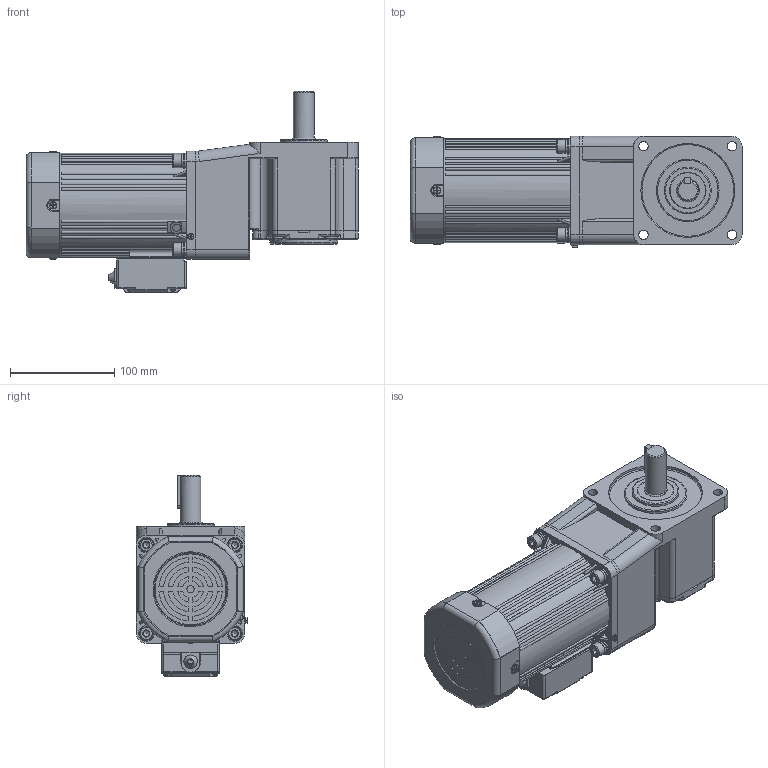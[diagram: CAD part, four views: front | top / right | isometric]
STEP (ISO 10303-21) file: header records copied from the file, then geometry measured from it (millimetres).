
FILE_DESCRIPTION(/* description */ (''),/* implementation_level */ '2;1');
FILE_NAME(/* name */ '100+直角中实-风叶-160-250W 新版标准接线盒.stp',/* time_stamp */ '2025-11-26T09:22:04+08:00',/* author */ (''),/* organization */ (''),/* preprocessor_version */ 'ST-DEVELOPER v18.102',/* originating_system */ 'SIEMENS PLM Software NX 2027',/* authorisation */ '');
FILE_SCHEMA (('AUTOMOTIVE_DESIGN { 1 0 10303 214 3 1 1 1 }'));
Products named in the file (1): 100+直角中实-风叶-160-250W 新版标准接线盒_
stp
Bounding box: 318.5 x 106.83 x 193.5 mm (x, y, z)
Volume: 3105183.1 mm3; surface area: 428900.4 mm2
Topology: 26 solids, 26 shells, 2466 faces, 6397 edges, 4092 vertices
Faces by surface type: plane 1099, cylinder 802, bspline 221, torus 163, cone 137, sphere 44
Full cylindrical faces by diameter (mm): 2.2 x2, 2.6 x2, 2.7 x1, 2.9 x4, 3 x17, 3.2 x2, 3.5 x6, 3.6 x4, 4 x4, 4.2 x1, 4.55 x2, 4.8 x1, 5.1 x2, 5.15 x2, 5.6 x4, 6 x12, 6.8 x12, 7 x3, 7.5 x2, 7.76 x4, 8 x1, 8.4 x4, 9 x13, 9.3 x1, 9.5 x4, 10 x2, 13 x4, 14 x8, 15 x5, 15.5 x2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
Entity records: 75833 total; most frequent: CARTESIAN_POINT 18428, ORIENTED_EDGE 11806, DIRECTION 11493, EDGE_CURVE 5903, AXIS2_PLACEMENT_3D 4416, VERTEX_POINT 3959, EDGE_LOOP 3017, LINE 2661
